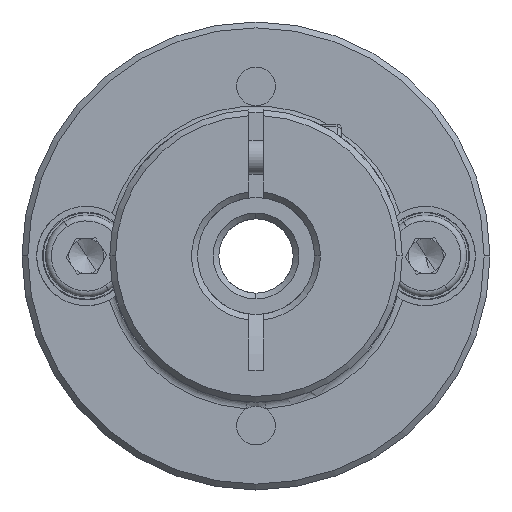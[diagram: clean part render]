
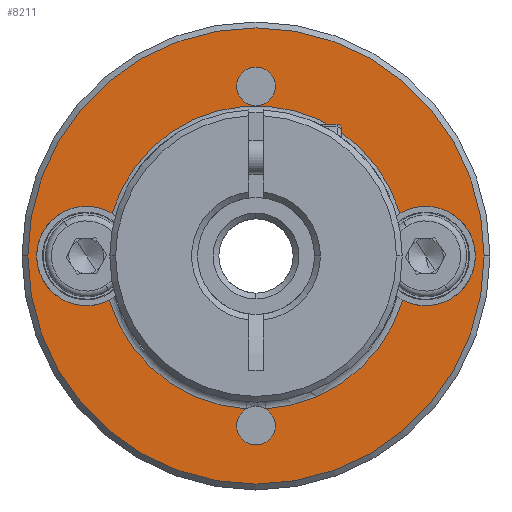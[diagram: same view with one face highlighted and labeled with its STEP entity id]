
A CAD part, front view. The second image highlights one B-rep face of the part: STEP entity #8211.
In plain terms, the highlighted planar face has unit normal (0, -1, 0).
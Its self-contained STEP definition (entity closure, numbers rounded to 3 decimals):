
#166 = AXIS2_PLACEMENT_3D ( 'NONE', #3171, #11921, #8054 ) ;
#241 = DIRECTION ( 'NONE',  ( 0., 1., 0. ) ) ;
#328 = AXIS2_PLACEMENT_3D ( 'NONE', #4256, #241, #7241 ) ;
#531 = CARTESIAN_POINT ( 'NONE',  ( -24.307, -13.63, 43.638 ) ) ;
#658 = EDGE_CURVE ( 'NONE', #2912, #6851, #5024, .T. ) ;
#861 = EDGE_CURVE ( 'NONE', #12674, #6152, #9915, .T. ) ;
#897 = CIRCLE ( 'NONE', #7718, 19.5 ) ;
#971 = CIRCLE ( 'NONE', #166, 13.1 ) ;
#985 = ORIENTED_EDGE ( 'NONE', *, *, #8383, .T. ) ;
#1209 = VERTEX_POINT ( 'NONE', #1437 ) ;
#1252 = DIRECTION ( 'NONE',  ( 0., -1., 0. ) ) ;
#1427 = EDGE_CURVE ( 'NONE', #1209, #2577, #2225, .T. ) ;
#1437 = CARTESIAN_POINT ( 'NONE',  ( 6.745, -13.63, 40. ) ) ;
#1649 = FACE_OUTER_BOUND ( 'NONE', #5666, .T. ) ;
#1708 = ORIENTED_EDGE ( 'NONE', *, *, #4272, .T. ) ;
#1750 = DIRECTION ( 'NONE',  ( 0., 1., 0. ) ) ;
#1766 = DIRECTION ( 'NONE',  ( 1., 0., 0. ) ) ;
#1882 = AXIS2_PLACEMENT_3D ( 'NONE', #12106, #1252, #2240 ) ;
#2107 = CARTESIAN_POINT ( 'NONE',  ( 2.495, -13.63, 40. ) ) ;
#2225 = CIRCLE ( 'NONE', #9754, 4.25 ) ;
#2228 = CIRCLE ( 'NONE', #11790, 4.25 ) ;
#2240 = DIRECTION ( 'NONE',  ( 1., 0., 0. ) ) ;
#2337 = ORIENTED_EDGE ( 'NONE', *, *, #7964, .T. ) ;
#2390 = CARTESIAN_POINT ( 'NONE',  ( -12.005, -13.63, 25.5 ) ) ;
#2407 = EDGE_CURVE ( 'NONE', #3424, #5515, #11614, .T. ) ;
#2480 = DIRECTION ( 'NONE',  ( 0., 1., 0. ) ) ;
#2528 = CARTESIAN_POINT ( 'NONE',  ( -24.55, -13.63, 36.226 ) ) ;
#2577 = VERTEX_POINT ( 'NONE', #4665 ) ;
#2784 = DIRECTION ( 'NONE',  ( 1., 0., 0. ) ) ;
#2805 = ORIENTED_EDGE ( 'NONE', *, *, #2407, .T. ) ;
#2912 = VERTEX_POINT ( 'NONE', #531 ) ;
#3171 = CARTESIAN_POINT ( 'NONE',  ( -12.005, -13.63, 40. ) ) ;
#3182 = DIRECTION ( 'NONE',  ( 1., 0., 0. ) ) ;
#3405 = CARTESIAN_POINT ( 'NONE',  ( -31.505, -13.63, 40. ) ) ;
#3410 = CARTESIAN_POINT ( 'NONE',  ( -11.175, -13.63, 26.926 ) ) ;
#3424 = VERTEX_POINT ( 'NONE', #6752 ) ;
#3584 = ORIENTED_EDGE ( 'NONE', *, *, #6875, .T. ) ;
#3701 = DIRECTION ( 'NONE',  ( 1., 0., 0. ) ) ;
#3907 = DIRECTION ( 'NONE',  ( 0., 1., 0. ) ) ;
#3950 = EDGE_CURVE ( 'NONE', #12126, #4940, #4065, .T. ) ;
#4002 = CIRCLE ( 'NONE', #7456, 1.65 ) ;
#4065 = CIRCLE ( 'NONE', #5929, 1.65 ) ;
#4082 = CIRCLE ( 'NONE', #12645, 1.65 ) ;
#4104 = CARTESIAN_POINT ( 'NONE',  ( -10.355, -13.63, 25.5 ) ) ;
#4127 = CARTESIAN_POINT ( 'NONE',  ( -12.005, -13.63, 40. ) ) ;
#4154 = EDGE_CURVE ( 'NONE', #2577, #12674, #971, .T. ) ;
#4256 = CARTESIAN_POINT ( 'NONE',  ( -26.505, -13.63, 40. ) ) ;
#4257 = DIRECTION ( 'NONE',  ( 1., 0., 0. ) ) ;
#4272 = EDGE_CURVE ( 'NONE', #9772, #9635, #9857, .T. ) ;
#4417 = DIRECTION ( 'NONE',  ( 0., 1., 0. ) ) ;
#4547 = CARTESIAN_POINT ( 'NONE',  ( -13.655, -13.63, 54.5 ) ) ;
#4665 = CARTESIAN_POINT ( 'NONE',  ( 0.54, -13.63, 36.226 ) ) ;
#4940 = VERTEX_POINT ( 'NONE', #4547 ) ;
#4968 = ORIENTED_EDGE ( 'NONE', *, *, #6662, .T. ) ;
#5024 = CIRCLE ( 'NONE', #5413, 12.829 ) ;
#5050 = ORIENTED_EDGE ( 'NONE', *, *, #1427, .T. ) ;
#5181 = DIRECTION ( 'NONE',  ( 1., 0., 0. ) ) ;
#5195 = ORIENTED_EDGE ( 'NONE', *, *, #8389, .T. ) ;
#5359 = ORIENTED_EDGE ( 'NONE', *, *, #3950, .T. ) ;
#5413 = AXIS2_PLACEMENT_3D ( 'NONE', #7321, #10332, #8292 ) ;
#5440 = ORIENTED_EDGE ( 'NONE', *, *, #11813, .T. ) ;
#5467 = CARTESIAN_POINT ( 'NONE',  ( -13.655, -13.63, 25.5 ) ) ;
#5514 = AXIS2_PLACEMENT_3D ( 'NONE', #12213, #2480, #12332 ) ;
#5515 = VERTEX_POINT ( 'NONE', #3405 ) ;
#5571 = CARTESIAN_POINT ( 'NONE',  ( -10.355, -13.63, 54.5 ) ) ;
#5636 = ORIENTED_EDGE ( 'NONE', *, *, #861, .T. ) ;
#5666 = EDGE_LOOP ( 'NONE', ( #2337, #2805 ) ) ;
#5803 = FACE_BOUND ( 'NONE', #10652, .T. ) ;
#5929 = AXIS2_PLACEMENT_3D ( 'NONE', #6823, #9684, #11657 ) ;
#6067 = DIRECTION ( 'NONE',  ( 0., 1., 0. ) ) ;
#6152 = VERTEX_POINT ( 'NONE', #4104 ) ;
#6306 = CARTESIAN_POINT ( 'NONE',  ( -26.505, -13.63, 40. ) ) ;
#6330 = ORIENTED_EDGE ( 'NONE', *, *, #4154, .T. ) ;
#6662 = EDGE_CURVE ( 'NONE', #6851, #1209, #8875, .T. ) ;
#6752 = CARTESIAN_POINT ( 'NONE',  ( 7.495, -13.63, 40. ) ) ;
#6777 = DIRECTION ( 'NONE',  ( 0., -1., 0. ) ) ;
#6823 = CARTESIAN_POINT ( 'NONE',  ( -12.005, -13.63, 54.5 ) ) ;
#6851 = VERTEX_POINT ( 'NONE', #12156 ) ;
#6875 = EDGE_CURVE ( 'NONE', #4940, #12126, #4002, .T. ) ;
#7219 = CARTESIAN_POINT ( 'NONE',  ( 2.495, -13.63, 40. ) ) ;
#7241 = DIRECTION ( 'NONE',  ( 1., 0., 0. ) ) ;
#7321 = CARTESIAN_POINT ( 'NONE',  ( -12.005, -13.63, 40. ) ) ;
#7438 = CARTESIAN_POINT ( 'NONE',  ( -12.005, -13.63, 54.5 ) ) ;
#7456 = AXIS2_PLACEMENT_3D ( 'NONE', #7438, #4417, #3701 ) ;
#7539 = AXIS2_PLACEMENT_3D ( 'NONE', #9834, #3907, #11684 ) ;
#7576 = CARTESIAN_POINT ( 'NONE',  ( -12.005, -13.63, 40. ) ) ;
#7718 = AXIS2_PLACEMENT_3D ( 'NONE', #10653, #6777, #1766 ) ;
#7778 = FACE_BOUND ( 'NONE', #7821, .T. ) ;
#7821 = EDGE_LOOP ( 'NONE', ( #1708, #9008, #11180, #4968, #5050, #6330, #5636, #985, #5440, #5195 ) ) ;
#7964 = EDGE_CURVE ( 'NONE', #5515, #3424, #897, .T. ) ;
#8054 = DIRECTION ( 'NONE',  ( 1., 0., 0. ) ) ;
#8211 = ADVANCED_FACE ( 'NONE', ( #1649, #7778, #5803 ), #11142, .T. ) ;
#8292 = DIRECTION ( 'NONE',  ( 1., 0., 0. ) ) ;
#8383 = EDGE_CURVE ( 'NONE', #6152, #8857, #8707, .T. ) ;
#8389 = EDGE_CURVE ( 'NONE', #11424, #9772, #11663, .T. ) ;
#8707 = CIRCLE ( 'NONE', #5514, 1.65 ) ;
#8857 = VERTEX_POINT ( 'NONE', #5467 ) ;
#8875 = CIRCLE ( 'NONE', #12526, 4.25 ) ;
#9008 = ORIENTED_EDGE ( 'NONE', *, *, #9380, .T. ) ;
#9350 = DIRECTION ( 'NONE',  ( 1., 0., 0. ) ) ;
#9380 = EDGE_CURVE ( 'NONE', #9635, #2912, #2228, .T. ) ;
#9635 = VERTEX_POINT ( 'NONE', #12088 ) ;
#9684 = DIRECTION ( 'NONE',  ( 0., 1., 0. ) ) ;
#9754 = AXIS2_PLACEMENT_3D ( 'NONE', #2107, #6067, #3182 ) ;
#9772 = VERTEX_POINT ( 'NONE', #2528 ) ;
#9834 = CARTESIAN_POINT ( 'NONE',  ( -12.005, -13.63, 25.5 ) ) ;
#9857 = CIRCLE ( 'NONE', #328, 4.25 ) ;
#9915 = CIRCLE ( 'NONE', #7539, 1.65 ) ;
#9936 = AXIS2_PLACEMENT_3D ( 'NONE', #7576, #1750, #2784 ) ;
#10061 = DIRECTION ( 'NONE',  ( 1., 0., 0. ) ) ;
#10152 = DIRECTION ( 'NONE',  ( 0., -1., 0. ) ) ;
#10332 = DIRECTION ( 'NONE',  ( 0., 1., 0. ) ) ;
#10652 = EDGE_LOOP ( 'NONE', ( #3584, #5359 ) ) ;
#10653 = CARTESIAN_POINT ( 'NONE',  ( -12.005, -13.63, 40. ) ) ;
#11046 = DIRECTION ( 'NONE',  ( 0., 1., 0. ) ) ;
#11142 = PLANE ( 'NONE',  #11700 ) ;
#11154 = DIRECTION ( 'NONE',  ( 0., 1., 0. ) ) ;
#11180 = ORIENTED_EDGE ( 'NONE', *, *, #658, .T. ) ;
#11181 = DIRECTION ( 'NONE',  ( 0., 1., 0. ) ) ;
#11424 = VERTEX_POINT ( 'NONE', #12518 ) ;
#11614 = CIRCLE ( 'NONE', #1882, 19.5 ) ;
#11657 = DIRECTION ( 'NONE',  ( 1., 0., 0. ) ) ;
#11663 = CIRCLE ( 'NONE', #9936, 13.1 ) ;
#11684 = DIRECTION ( 'NONE',  ( 1., 0., 0. ) ) ;
#11700 = AXIS2_PLACEMENT_3D ( 'NONE', #4127, #10152, #10061 ) ;
#11790 = AXIS2_PLACEMENT_3D ( 'NONE', #6306, #11154, #4257 ) ;
#11813 = EDGE_CURVE ( 'NONE', #8857, #11424, #4082, .T. ) ;
#11921 = DIRECTION ( 'NONE',  ( 0., 1., 0. ) ) ;
#12088 = CARTESIAN_POINT ( 'NONE',  ( -30.755, -13.63, 40. ) ) ;
#12106 = CARTESIAN_POINT ( 'NONE',  ( -12.005, -13.63, 40. ) ) ;
#12126 = VERTEX_POINT ( 'NONE', #5571 ) ;
#12156 = CARTESIAN_POINT ( 'NONE',  ( 0.298, -13.63, 43.638 ) ) ;
#12213 = CARTESIAN_POINT ( 'NONE',  ( -12.005, -13.63, 25.5 ) ) ;
#12332 = DIRECTION ( 'NONE',  ( 1., 0., 0. ) ) ;
#12518 = CARTESIAN_POINT ( 'NONE',  ( -12.834, -13.63, 26.926 ) ) ;
#12526 = AXIS2_PLACEMENT_3D ( 'NONE', #7219, #11046, #5181 ) ;
#12645 = AXIS2_PLACEMENT_3D ( 'NONE', #2390, #11181, #9350 ) ;
#12674 = VERTEX_POINT ( 'NONE', #3410 ) ;
